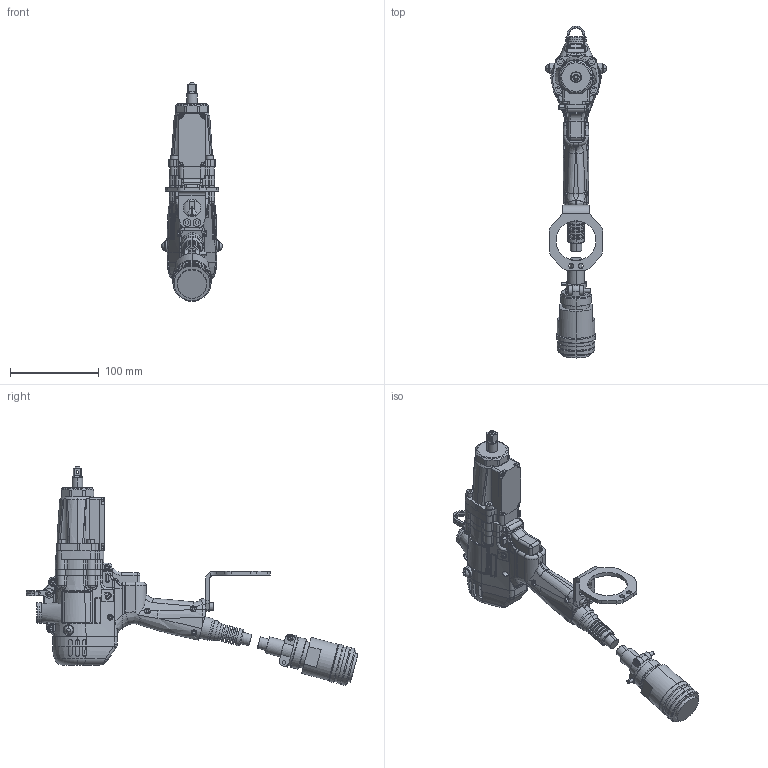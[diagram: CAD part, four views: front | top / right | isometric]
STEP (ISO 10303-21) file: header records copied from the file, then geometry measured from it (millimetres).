
FILE_DESCRIPTION (( 'STEP AP203' ), '1' );
FILE_NAME ('UEP-60MC.STEP', '2007-05-24T01:14:35', ( ' ' ), ( ' ' ), 'SwSTEP 2.0', 'SolidWorks 2003240', '' );
FILE_SCHEMA (( 'CONFIG_CONTROL_DESIGN' ));
Products named in the file (13): 1370275_UEP-60MC_蹬怮椔; 9105230_UEP-60MC_蹬怮椔; 9105010_UEP-60MC_蹬怮椔; UEP-60MC; 1363199_UL40MC_蹬怮椔; 1499753_UEP-60MC_蹬怮椔; 1360047_UEP-60MC_蹬怮椔; 1367947_UEP-60MC_蹬怮椔; 1360128_UEP-60MC_蹬怮椔; 1362128_UEP-60MC_蹬怮椔; 1367917_UEP-60MC_蹬怮椔; 9106010_UEP-60MC_蹬怮椔; GRIP-COVER_UEP-60MC_蹬怮椔
Assembly tree (12 placements, depth 2):
  UEP-60MC
    9106010_UEP-60MC_蹬怮椔
    1360047_UEP-60MC_蹬怮椔
    GRIP-COVER_UEP-60MC_蹬怮椔
    9105230_UEP-60MC_蹬怮椔
    1362128_UEP-60MC_蹬怮椔
    9105010_UEP-60MC_蹬怮椔
    1367917_UEP-60MC_蹬怮椔
    1360128_UEP-60MC_蹬怮椔
    1499753_UEP-60MC_蹬怮椔
    1370275_UEP-60MC_蹬怮椔
    1367947_UEP-60MC_蹬怮椔
    1363199_UL40MC_蹬怮椔
Bounding box: 67.91 x 374.74 x 246.84 mm (x, y, z)
Volume: 739002.1 mm3; surface area: 142985.2 mm2
Topology: 12 solids, 12 shells, 1832 faces, 4857 edges, 3127 vertices
Faces by surface type: plane 884, cylinder 626, bspline 187, torus 91, sphere 22, cone 22
Entity records: 142079 total; most frequent: CARTESIAN_POINT 97935, ORIENTED_EDGE 9686, DIRECTION 7837, EDGE_CURVE 4843, VERTEX_POINT 3127, AXIS2_PLACEMENT_3D 2850, VECTOR 2137, LINE 2137
